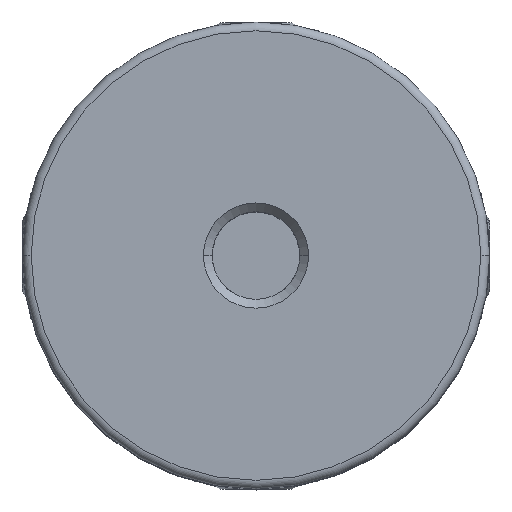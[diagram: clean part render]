
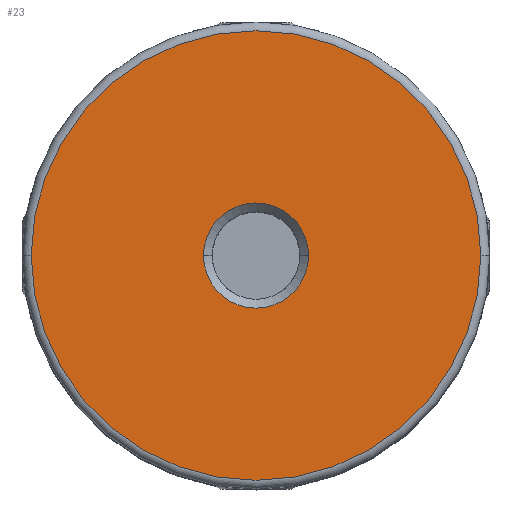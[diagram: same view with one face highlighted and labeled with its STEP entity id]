
A CAD part, top view. The second image highlights one B-rep face of the part: STEP entity #23.
In plain terms, the highlighted planar face has unit normal (0, 0, 1).
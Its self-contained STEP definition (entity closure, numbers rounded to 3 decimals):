
#23 = ADVANCED_FACE ( 'NONE', ( #4356, #4722 ), #4200, .F. ) ;
#195 = DIRECTION ( 'NONE',  ( 0., 0., -1. ) ) ;
#247 = DIRECTION ( 'NONE',  ( 0., 1., 0. ) ) ;
#473 = DIRECTION ( 'NONE',  ( 0., 1., 0. ) ) ;
#476 = DIRECTION ( 'NONE',  ( 0., 0., -1. ) ) ;
#478 = CARTESIAN_POINT ( 'NONE',  ( 0., 0., 8.95 ) ) ;
#685 = EDGE_CURVE ( 'NONE', #4411, #4237, #1894, .T. ) ;
#722 = AXIS2_PLACEMENT_3D ( 'NONE', #4203, #4196, #4199 ) ;
#850 = AXIS2_PLACEMENT_3D ( 'NONE', #2345, #2361, #2470 ) ;
#886 = AXIS2_PLACEMENT_3D ( 'NONE', #2390, #2388, #2387 ) ;
#892 = AXIS2_PLACEMENT_3D ( 'NONE', #2340, #195, #247 ) ;
#925 = AXIS2_PLACEMENT_3D ( 'NONE', #478, #476, #473 ) ;
#1104 = EDGE_CURVE ( 'NONE', #4237, #4411, #2037, .T. ) ;
#1125 = EDGE_CURVE ( 'NONE', #1558, #1516, #2065, .T. ) ;
#1201 = EDGE_CURVE ( 'NONE', #1516, #1558, #2158, .T. ) ;
#1516 = VERTEX_POINT ( 'NONE', #5121 ) ;
#1558 = VERTEX_POINT ( 'NONE', #5036 ) ;
#1894 = CIRCLE ( 'NONE', #850, 7.7 ) ;
#2037 = CIRCLE ( 'NONE', #886, 7.7 ) ;
#2065 = CIRCLE ( 'NONE', #892, 1.8 ) ;
#2158 = CIRCLE ( 'NONE', #925, 1.8 ) ;
#2340 = CARTESIAN_POINT ( 'NONE',  ( 0., 0., 8.95 ) ) ;
#2345 = CARTESIAN_POINT ( 'NONE',  ( 0., 0., 8.95 ) ) ;
#2361 = DIRECTION ( 'NONE',  ( 0., 0., 1. ) ) ;
#2387 = DIRECTION ( 'NONE',  ( -1., 0., 0. ) ) ;
#2388 = DIRECTION ( 'NONE',  ( 0., 0., 1. ) ) ;
#2390 = CARTESIAN_POINT ( 'NONE',  ( 0., 0., 8.95 ) ) ;
#2470 = DIRECTION ( 'NONE',  ( -1., 0., 0. ) ) ;
#3607 = ORIENTED_EDGE ( 'NONE', *, *, #685, .T. ) ;
#3617 = ORIENTED_EDGE ( 'NONE', *, *, #1104, .T. ) ;
#3620 = ORIENTED_EDGE ( 'NONE', *, *, #1125, .T. ) ;
#3625 = ORIENTED_EDGE ( 'NONE', *, *, #1201, .T. ) ;
#4196 = DIRECTION ( 'NONE',  ( 0., 0., -1. ) ) ;
#4199 = DIRECTION ( 'NONE',  ( -1., 0., 0. ) ) ;
#4200 = PLANE ( 'NONE',  #722 ) ;
#4203 = CARTESIAN_POINT ( 'NONE',  ( 0., 0., 8.95 ) ) ;
#4237 = VERTEX_POINT ( 'NONE', #5388 ) ;
#4300 = EDGE_LOOP ( 'NONE', ( #3617, #3607 ) ) ;
#4356 = FACE_BOUND ( 'NONE', #4629, .T. ) ;
#4411 = VERTEX_POINT ( 'NONE', #5641 ) ;
#4629 = EDGE_LOOP ( 'NONE', ( #3625, #3620 ) ) ;
#4722 = FACE_OUTER_BOUND ( 'NONE', #4300, .T. ) ;
#5036 = CARTESIAN_POINT ( 'NONE',  ( -1.8, 0., 8.95 ) ) ;
#5121 = CARTESIAN_POINT ( 'NONE',  ( 1.8, 0., 8.95 ) ) ;
#5388 = CARTESIAN_POINT ( 'NONE',  ( -7.7, 0., 8.95 ) ) ;
#5641 = CARTESIAN_POINT ( 'NONE',  ( 7.7, 0., 8.95 ) ) ;
